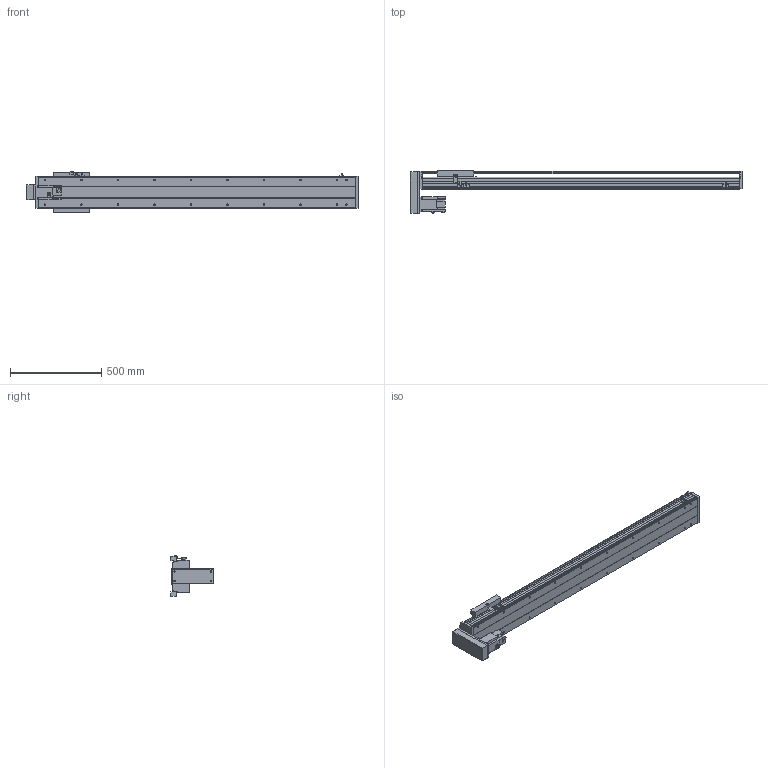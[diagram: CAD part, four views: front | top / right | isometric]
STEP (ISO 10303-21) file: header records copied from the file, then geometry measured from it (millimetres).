
FILE_DESCRIPTION(/* description */ ('STEP AP214'),/* implementation_level */ '2;1');
FILE_NAME(/* name */ 'PSS200-L10-S1400-BM-T75-C1-N(0)',/* time_stamp */ '2022-06-29T09:55:29+02:00',/* author */ ('License CC BY-ND 4.0'),/* organization */ ('CADENAS'),/* preprocessor_version */ 'ST-DEVELOPER v18.102',/* originating_system */ 'PARTsolutions',/* authorisation */ ' ');
FILE_SCHEMA (('AUTOMOTIVE_DESIGN {1 0 10303 214 3 1 1}'));
Length unit declared in the file: millimetre
Products named in the file (8): PSS200-L10-S1400-BM-T75-C1-N(0); PSS200-S1400-BM-N_S; T75-p1; PSS200BM-N_h; PSS200-N_sensor; PSS200-BM-C1-N_sl; PSS200-N_Q; PSS200-S1400-BM-C1-N_body
Assembly tree (9 placements, depth 2):
  PSS200-L10-S1400-BM-T75-C1-N(0)
    PSS200-S1400-BM-N_S
    T75-p1
    PSS200BM-N_h
    PSS200-N_sensor  x3
    PSS200-BM-C1-N_sl
    PSS200-N_Q
    PSS200-S1400-BM-C1-N_body
Bounding box: 1816.85 x 234.45 x 223.86 mm (x, y, z)
Volume: 11034363.6 mm3; surface area: 2771065.4 mm2
Topology: 9 solids, 9 shells, 614 faces, 1649 edges, 1094 vertices
Faces by surface type: plane 452, cylinder 130, cone 28, sphere 4
Full cylindrical faces by diameter (mm): 4 x2, 4.5 x4, 6 x7, 6.647 x24, 7.4 x4, 8 x8, 10 x6, 25 x1, 40 x1, 67 x1
Entity records: 17068 total; most frequent: CARTESIAN_POINT 2949, DIRECTION 2827, ORIENTED_EDGE 2770, EDGE_CURVE 1385, LINE 1071, VECTOR 1071, VERTEX_POINT 968, AXIS2_PLACEMENT_3D 878
